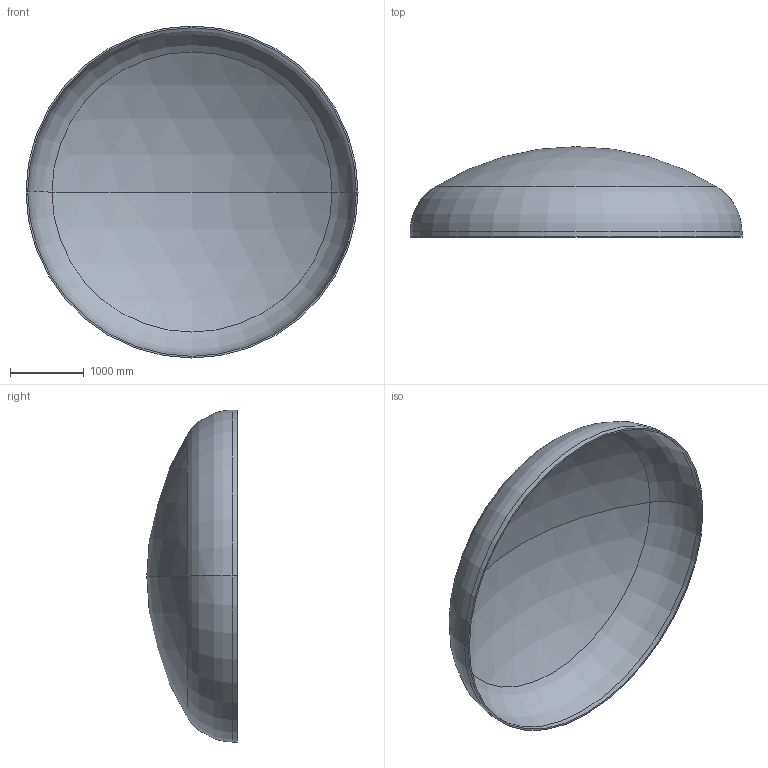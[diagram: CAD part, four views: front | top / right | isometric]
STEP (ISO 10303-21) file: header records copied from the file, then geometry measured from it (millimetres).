
FILE_DESCRIPTION (( 'STEP AP203' ), '1' );
FILE_NAME ('DIN 28013 Korbbogenform_-_Boden DIN 28013 - 4500 x 70 - I - s=23.step', '2016-07-01T23:11:12', ( '' ), ( '' ), 'SwSTEP 2.0', 'SolidWorks 2013', '' );
FILE_SCHEMA (( 'CONFIG_CONTROL_DESIGN' ));
Length unit declared in the file: millimetre
Products named in the file (1): DIN 28013 Korbbogenform_-_Boden DIN 28013 - 4500 x 70 - I - s=23
Bounding box: 4500 x 1224.8 x 4500 mm (x, y, z)
Volume: 526159334.2 mm3; surface area: 46077568.4 mm2
Topology: 1 solids, 1 shells, 13 faces, 24 edges, 14 vertices
Faces by surface type: torus 4, cylinder 4, sphere 4, plane 1
Entity records: 407 total; most frequent: DIRECTION 72, CARTESIAN_POINT 52, ORIENTED_EDGE 48, AXIS2_PLACEMENT_3D 34, EDGE_CURVE 24, CIRCLE 20, VERTEX_POINT 14, EDGE_LOOP 14
